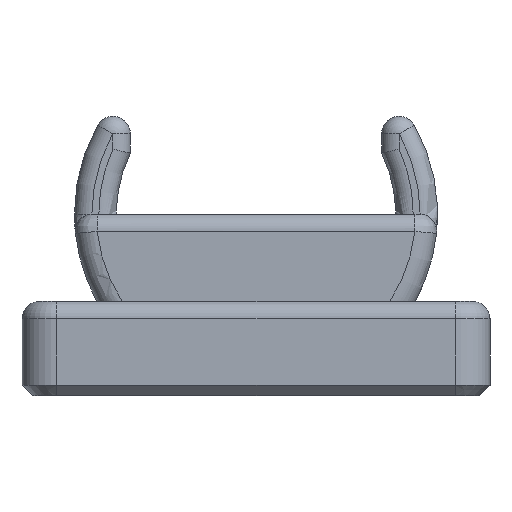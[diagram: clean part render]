
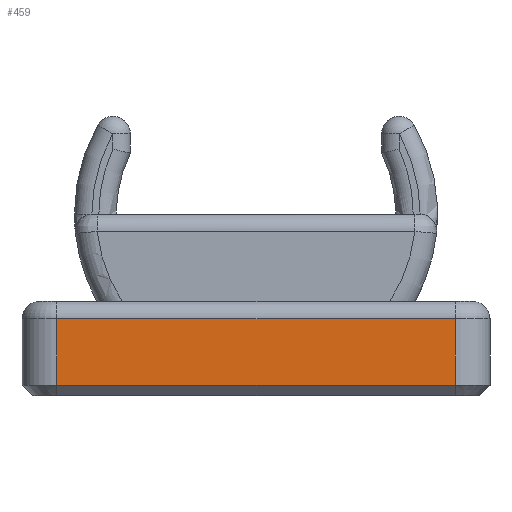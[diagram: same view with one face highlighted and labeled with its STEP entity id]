
A CAD part, left-side view. The second image highlights one B-rep face of the part: STEP entity #459.
In plain terms, the highlighted planar face has unit normal (-1, 0, 0).
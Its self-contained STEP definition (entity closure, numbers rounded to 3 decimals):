
#44 = CYLINDRICAL_SURFACE('',#45,2.);
#45 = AXIS2_PLACEMENT_3D('',#46,#47,#48);
#46 = CARTESIAN_POINT('',(-7.67,-11.4,0.));
#47 = DIRECTION('',(-0.,-0.,-1.));
#48 = DIRECTION('',(1.,0.,0.));
#141 = EDGE_CURVE('',#142,#144,#146,.T.);
#142 = VERTEX_POINT('',#143);
#143 = CARTESIAN_POINT('',(-9.67,-11.4,0.6));
#144 = VERTEX_POINT('',#145);
#145 = CARTESIAN_POINT('',(-9.67,-11.4,4.4));
#146 = SURFACE_CURVE('',#147,(#151,#158),.PCURVE_S1.);
#147 = LINE('',#148,#149);
#148 = CARTESIAN_POINT('',(-9.67,-11.4,0.));
#149 = VECTOR('',#150,1.);
#150 = DIRECTION('',(0.,0.,1.));
#151 = PCURVE('',#44,#152);
#152 = DEFINITIONAL_REPRESENTATION('',(#153),#157);
#153 = LINE('',#154,#155);
#154 = CARTESIAN_POINT('',(-3.142,0.));
#155 = VECTOR('',#156,1.);
#156 = DIRECTION('',(-0.,-1.));
#157 = ( GEOMETRIC_REPRESENTATION_CONTEXT(2) 
PARAMETRIC_REPRESENTATION_CONTEXT() REPRESENTATION_CONTEXT('2D SPACE',''
  ) );
#158 = PCURVE('',#159,#164);
#159 = PLANE('',#160);
#160 = AXIS2_PLACEMENT_3D('',#161,#162,#163);
#161 = CARTESIAN_POINT('',(-9.67,11.4,0.));
#162 = DIRECTION('',(1.,0.,-0.));
#163 = DIRECTION('',(0.,-1.,0.));
#164 = DEFINITIONAL_REPRESENTATION('',(#165),#169);
#165 = LINE('',#166,#167);
#166 = CARTESIAN_POINT('',(22.8,0.));
#167 = VECTOR('',#168,1.);
#168 = DIRECTION('',(0.,-1.));
#169 = ( GEOMETRIC_REPRESENTATION_CONTEXT(2) 
PARAMETRIC_REPRESENTATION_CONTEXT() REPRESENTATION_CONTEXT('2D SPACE',''
  ) );
#459 = ADVANCED_FACE('',(#460),#159,.F.);
#460 = FACE_BOUND('',#461,.F.);
#461 = EDGE_LOOP('',(#462,#492,#518,#519));
#462 = ORIENTED_EDGE('',*,*,#463,.T.);
#463 = EDGE_CURVE('',#464,#466,#468,.T.);
#464 = VERTEX_POINT('',#465);
#465 = CARTESIAN_POINT('',(-9.67,11.4,0.6));
#466 = VERTEX_POINT('',#467);
#467 = CARTESIAN_POINT('',(-9.67,11.4,4.4));
#468 = SURFACE_CURVE('',#469,(#473,#480),.PCURVE_S1.);
#469 = LINE('',#470,#471);
#470 = CARTESIAN_POINT('',(-9.67,11.4,0.));
#471 = VECTOR('',#472,1.);
#472 = DIRECTION('',(0.,0.,1.));
#473 = PCURVE('',#159,#474);
#474 = DEFINITIONAL_REPRESENTATION('',(#475),#479);
#475 = LINE('',#476,#477);
#476 = CARTESIAN_POINT('',(0.,0.));
#477 = VECTOR('',#478,1.);
#478 = DIRECTION('',(0.,-1.));
#479 = ( GEOMETRIC_REPRESENTATION_CONTEXT(2) 
PARAMETRIC_REPRESENTATION_CONTEXT() REPRESENTATION_CONTEXT('2D SPACE',''
  ) );
#480 = PCURVE('',#481,#486);
#481 = CYLINDRICAL_SURFACE('',#482,2.);
#482 = AXIS2_PLACEMENT_3D('',#483,#484,#485);
#483 = CARTESIAN_POINT('',(-7.67,11.4,0.));
#484 = DIRECTION('',(-0.,-0.,-1.));
#485 = DIRECTION('',(1.,0.,0.));
#486 = DEFINITIONAL_REPRESENTATION('',(#487),#491);
#487 = LINE('',#488,#489);
#488 = CARTESIAN_POINT('',(-3.142,0.));
#489 = VECTOR('',#490,1.);
#490 = DIRECTION('',(-0.,-1.));
#491 = ( GEOMETRIC_REPRESENTATION_CONTEXT(2) 
PARAMETRIC_REPRESENTATION_CONTEXT() REPRESENTATION_CONTEXT('2D SPACE',''
  ) );
#492 = ORIENTED_EDGE('',*,*,#493,.T.);
#493 = EDGE_CURVE('',#466,#144,#494,.T.);
#494 = SURFACE_CURVE('',#495,(#499,#506),.PCURVE_S1.);
#495 = LINE('',#496,#497);
#496 = CARTESIAN_POINT('',(-9.67,11.4,4.4));
#497 = VECTOR('',#498,1.);
#498 = DIRECTION('',(0.,-1.,0.));
#499 = PCURVE('',#159,#500);
#500 = DEFINITIONAL_REPRESENTATION('',(#501),#505);
#501 = LINE('',#502,#503);
#502 = CARTESIAN_POINT('',(0.,-4.4));
#503 = VECTOR('',#504,1.);
#504 = DIRECTION('',(1.,0.));
#505 = ( GEOMETRIC_REPRESENTATION_CONTEXT(2) 
PARAMETRIC_REPRESENTATION_CONTEXT() REPRESENTATION_CONTEXT('2D SPACE',''
  ) );
#506 = PCURVE('',#507,#512);
#507 = CYLINDRICAL_SURFACE('',#508,1.);
#508 = AXIS2_PLACEMENT_3D('',#509,#510,#511);
#509 = CARTESIAN_POINT('',(-8.67,11.4,4.4));
#510 = DIRECTION('',(0.,-1.,0.));
#511 = DIRECTION('',(-1.,-0.,0.));
#512 = DEFINITIONAL_REPRESENTATION('',(#513),#517);
#513 = LINE('',#514,#515);
#514 = CARTESIAN_POINT('',(-0.,0.));
#515 = VECTOR('',#516,1.);
#516 = DIRECTION('',(-0.,1.));
#517 = ( GEOMETRIC_REPRESENTATION_CONTEXT(2) 
PARAMETRIC_REPRESENTATION_CONTEXT() REPRESENTATION_CONTEXT('2D SPACE',''
  ) );
#518 = ORIENTED_EDGE('',*,*,#141,.F.);
#519 = ORIENTED_EDGE('',*,*,#520,.F.);
#520 = EDGE_CURVE('',#464,#142,#521,.T.);
#521 = SURFACE_CURVE('',#522,(#526,#533),.PCURVE_S1.);
#522 = LINE('',#523,#524);
#523 = CARTESIAN_POINT('',(-9.67,11.4,0.6));
#524 = VECTOR('',#525,1.);
#525 = DIRECTION('',(0.,-1.,0.));
#526 = PCURVE('',#159,#527);
#527 = DEFINITIONAL_REPRESENTATION('',(#528),#532);
#528 = LINE('',#529,#530);
#529 = CARTESIAN_POINT('',(0.,-0.6));
#530 = VECTOR('',#531,1.);
#531 = DIRECTION('',(1.,0.));
#532 = ( GEOMETRIC_REPRESENTATION_CONTEXT(2) 
PARAMETRIC_REPRESENTATION_CONTEXT() REPRESENTATION_CONTEXT('2D SPACE',''
  ) );
#533 = PCURVE('',#534,#539);
#534 = PLANE('',#535);
#535 = AXIS2_PLACEMENT_3D('',#536,#537,#538);
#536 = CARTESIAN_POINT('',(-9.37,11.4,0.3));
#537 = DIRECTION('',(-0.707,0.,-0.707));
#538 = DIRECTION('',(-0.,1.,0.));
#539 = DEFINITIONAL_REPRESENTATION('',(#540),#544);
#540 = LINE('',#541,#542);
#541 = CARTESIAN_POINT('',(-0.,-0.424));
#542 = VECTOR('',#543,1.);
#543 = DIRECTION('',(-1.,0.));
#544 = ( GEOMETRIC_REPRESENTATION_CONTEXT(2) 
PARAMETRIC_REPRESENTATION_CONTEXT() REPRESENTATION_CONTEXT('2D SPACE',''
  ) );
